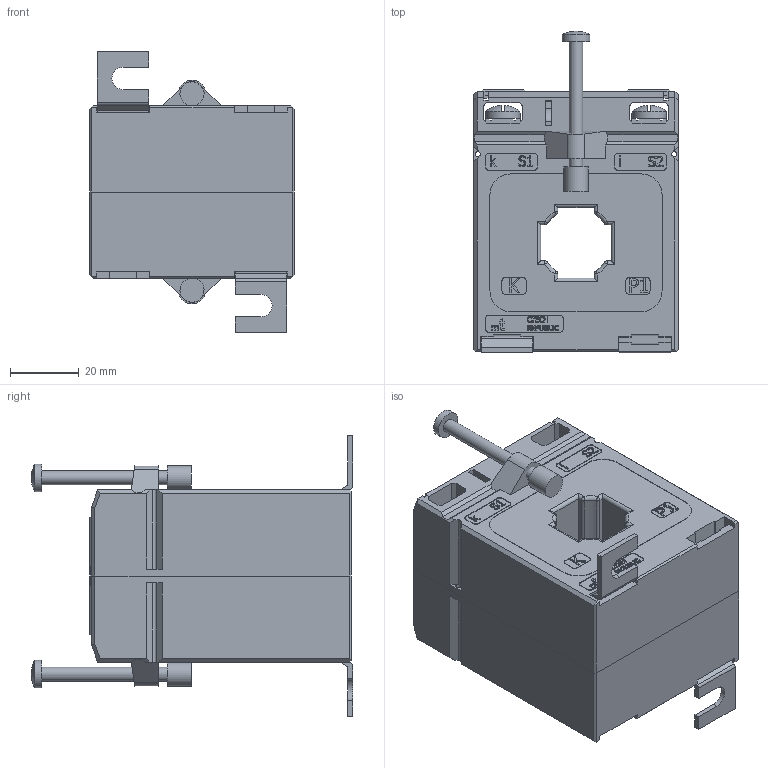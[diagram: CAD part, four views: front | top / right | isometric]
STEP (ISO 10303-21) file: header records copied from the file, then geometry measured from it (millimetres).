
FILE_DESCRIPTION(/* description */ (''),/* implementation_level */ '2;1');
FILE_NAME(/* name */ 'CLB 2.65.step',/* time_stamp */ '2024-10-11T21:02:10+02:00',/* author */ ('peter'),/* organization */ (''),/* preprocessor_version */ 'ST-DEVELOPER v20',/* originating_system */ 'Autodesk Inventor 2025',/* authorisation */ '');
FILE_SCHEMA (('AUTOMOTIVE_DESIGN { 1 0 10303 214 3 1 1 }'));
Length unit declared in the file: millimetre
Products named in the file (10): Current transformer CLB 2.65; Front plastic case CLB 2.65; Back plastic case CLB 2.65; Tape label CLB 2.65; Secondary terminal 28 CLB; Secondary terminal cover 37 CLB; Metal mounting foot CLB; Screw M5x8; Screw 4x60; Insulating cap
Assembly tree (17 placements, depth 2):
  Current transformer CLB 2.65
    Front plastic case CLB 2.65
    Back plastic case CLB 2.65
    Tape label CLB 2.65
    Secondary terminal 28 CLB  x2
    Secondary terminal cover 37 CLB  x2
    Metal mounting foot CLB  x2
    Screw M5x8  x4
    Screw 4x60  x2
    Insulating cap  x2
Bounding box: 59.5 x 93.34 x 81.5 mm (x, y, z)
Volume: 197438.3 mm3; surface area: 50685.7 mm2
Topology: 17 solids, 17 shells, 1704 faces, 4658 edges, 3062 vertices
Faces by surface type: plane 1075, bspline 389, cylinder 192, sphere 26, cone 14, torus 8
Full cylindrical faces by diameter (mm): 1.5 x4, 2.5 x2, 2.95 x2, 3 x4, 3.5 x2, 4 x4, 4.134 x4, 5 x4, 7 x2, 8 x2, 10 x4
Entity records: 50524 total; most frequent: CARTESIAN_POINT 13585, ORIENTED_EDGE 8358, DIRECTION 6055, EDGE_CURVE 4179, LINE 3033, VECTOR 3033, VERTEX_POINT 2751, EDGE_LOOP 1636
